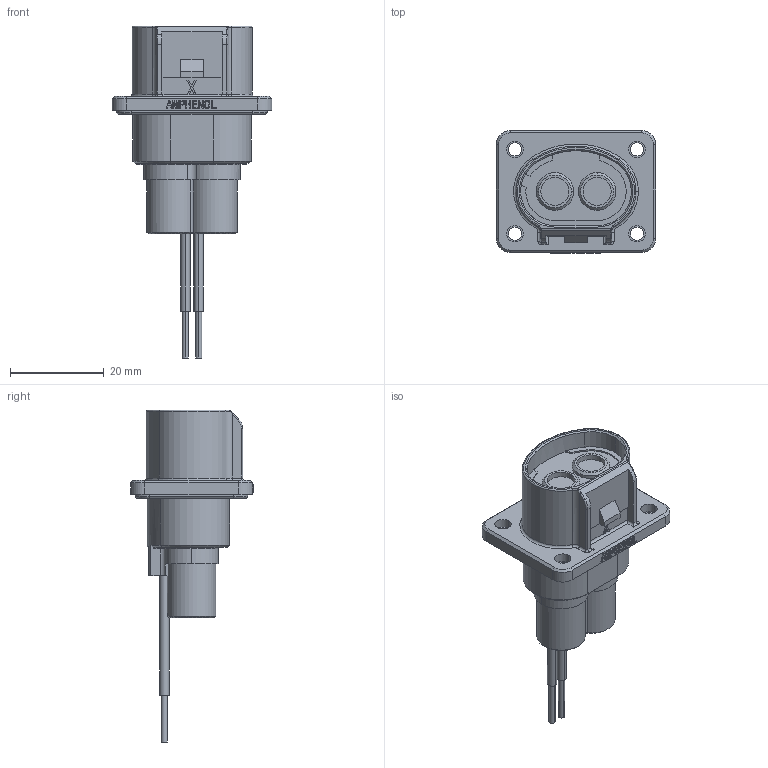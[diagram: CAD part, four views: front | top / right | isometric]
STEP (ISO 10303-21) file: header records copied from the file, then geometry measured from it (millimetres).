
FILE_DESCRIPTION (( 'STEP AP214' ), '1' );
FILE_NAME ('PL082X-61-XXB.STEP', '2021-01-20T07:43:20', ( '' ), ( '' ), 'SwSTEP 2.0', 'SolidWorks 2018', '' );
FILE_SCHEMA (( 'AUTOMOTIVE_DESIGN' ));
Length unit declared in the file: millimetre
Products named in the file (1): PL082X-61-XXB
Bounding box: 34 x 26.2 x 70.77 mm (x, y, z)
Volume: 13962.3 mm3; surface area: 6300.3 mm2
Topology: 1 solids, 1 shells, 442 faces, 1110 edges, 700 vertices
Faces by surface type: plane 203, cylinder 139, torus 50, cone 29, bspline 21
Entity records: 19280 total; most frequent: CARTESIAN_POINT 3726, DIRECTION 2292, ORIENTED_EDGE 2220, EDGE_CURVE 1110, AXIS2_PLACEMENT_3D 821, VERTEX_POINT 700, LINE 650, VECTOR 650
